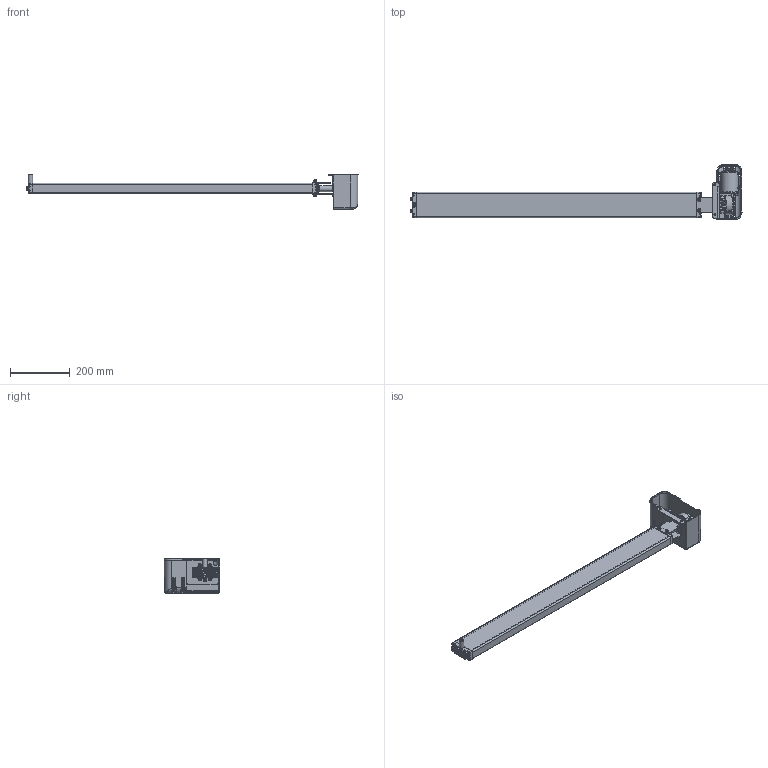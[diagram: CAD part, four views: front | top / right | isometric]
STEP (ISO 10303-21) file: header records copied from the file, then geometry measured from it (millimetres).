
FILE_DESCRIPTION(/* description */ ('Unknown'),/* implementation_level */ '2;1');
FILE_NAME(/* name */ '3X0.20030 Pumpe PA 2870 W mit Antrieb',/* time_stamp */ '2016-08-10T15:17:47+02:00',/* author */ ('Unknown'),/* organization */ ('Unknown'),/* preprocessor_version */ 'ST-DEVELOPER v16.7',/* originating_system */ 'DEX',/* authorisation */ $);
FILE_SCHEMA (('AUTOMOTIVE_DESIGN {1 0 10303 214 3 1 1}'));
Products named in the file (30): 100.20007; 115.00039; 125.00045; 115.00008; 142.00021; 125.00021; 142.00013; 125.00149; 122.00040; 126.00002; 119.00028; 126.00001; 127.00202; 127.00200; 127.00029; 124.00090; Getriebe; Ring; Schraube; Stator; Abdeckplatte; Antriebswelle; 128.00051; 123.00030; 142.00018; 142.00019; 142.00036; 142.00131; 123.00029; 142.00057
Assembly tree (42 placements, depth 3):
  100.20007
    115.00039  x2
      125.00045
      115.00008
      142.00021
      125.00021
    142.00013  x8
    125.00149
    122.00040
    126.00002
    119.00028
    126.00001
    127.00202
      127.00200
      127.00029
    124.00090
      Getriebe
      Ring
      Schraube
      Stator
      Abdeckplatte
      Antriebswelle
    128.00051
    123.00030
    142.00018  x2
    142.00019  x2
    142.00036  x2
    142.00131  x3
    123.00029
    142.00057
Bounding box: 1112.42 x 186.04 x 115.45 mm (x, y, z)
Volume: 1344908.7 mm3; surface area: 782524.3 mm2
Topology: 40 solids, 40 shells, 4148 faces, 10487 edges, 6361 vertices
Faces by surface type: plane 1169, bspline 1140, cylinder 1132, cone 425, torus 196, sphere 86
Full cylindrical faces by diameter (mm): 2.5 x4, 3.2 x4, 3.5 x2, 3.9 x5, 4.1 x2, 4.2 x4, 4.4 x5, 4.5 x1, 4.917 x2, 5 x8, 5.5 x5, 6 x6, 6.4 x2, 6.8 x9, 6.917 x4, 7 x1, 8 x6, 8.5 x2, 9 x2, 9.5 x1, 9.8 x8, 10 x8, 10.3 x1, 10.32 x1, 10.4 x1, 11 x5, 14 x2, 14.4 x2, 15 x1, 17 x1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
Entity records: 169163 total; most frequent: CARTESIAN_POINT 89287, ORIENTED_EDGE 16600, DIRECTION 12162, EDGE_CURVE 8300, VERTEX_POINT 5374, AXIS2_PLACEMENT_3D 4821, FACE_BOUND 4048, EDGE_LOOP 4044
